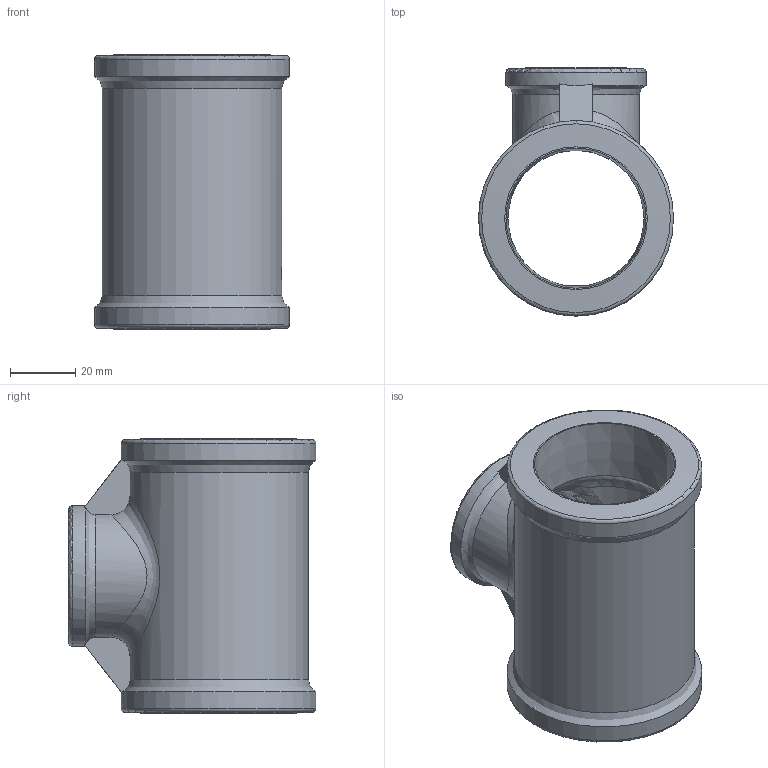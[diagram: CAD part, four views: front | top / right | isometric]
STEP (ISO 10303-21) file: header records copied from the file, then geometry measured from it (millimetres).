
FILE_DESCRIPTION((''),'2;1');
FILE_NAME('P:\Fastrack\53909_CRANE\Crane\Fig.161 Tee\New 1.50 inch\161-1.50x1.00.stp','2009-09-16T12:36:20',('btaylor'),(''),'Autodesk Inventor 2008','Autodesk Inventor 2008','');
FILE_SCHEMA(('AUTOMOTIVE_DESIGN { 1 0 10303 214 1 1 1 1 }'));
Length unit declared in the file: millimetre
Products named in the file (1): 161-1.50x1.00
Bounding box: 59.6 x 75.8 x 84 mm (x, y, z)
Volume: 84789 mm3; surface area: 33541.8 mm2
Topology: 1 solids, 1 shells, 66 faces, 181 edges, 119 vertices
Faces by surface type: bspline 26, plane 19, cylinder 12, cone 6, torus 3
Full cylindrical faces by diameter (mm): 43 x1, 59.6 x2
Entity records: 4040 total; most frequent: CARTESIAN_POINT 2578, ORIENTED_EDGE 316, DIRECTION 240, EDGE_CURVE 158, VERTEX_POINT 111, AXIS2_PLACEMENT_3D 101, EDGE_LOOP 87, FACE_OUTER_BOUND 66
